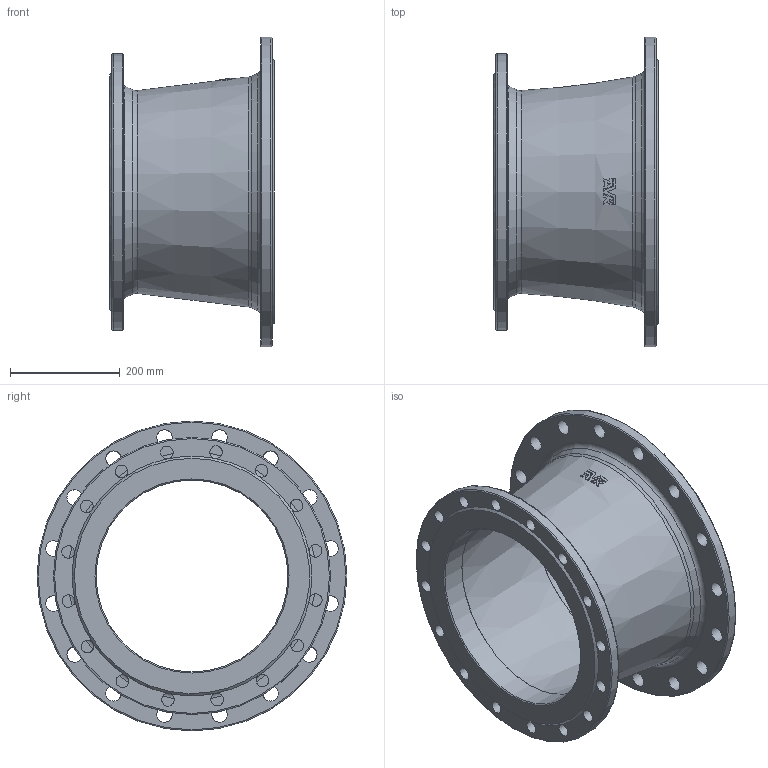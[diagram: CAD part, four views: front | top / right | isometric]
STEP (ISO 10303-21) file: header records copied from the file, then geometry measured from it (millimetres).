
FILE_DESCRIPTION (( 'STEP AP203' ), '1' );
FILE_NAME ('O_712_2210_DN400_DN350_0X_REV01.step', '2024-08-08T06:39:55', ( '' ), ( '' ), 'SwSTEP 2.0', 'SolidWorks 2022', '' );
FILE_SCHEMA (( 'CONFIG_CONTROL_DESIGN' ));
Length unit declared in the file: millimetre
Products named in the file (1): O_712_2210_DN400_DN350_0X_REV01
Bounding box: 300 x 565 x 565 mm (x, y, z)
Volume: 8036420.3 mm3; surface area: 1166906.5 mm2
Topology: 1 solids, 1 shells, 117 faces, 358 edges, 219 vertices
Faces by surface type: plane 57, cylinder 38, cone 12, torus 10
Full cylindrical faces by diameter (mm): 23 x16, 28 x16, 350 x1, 400 x1, 505 x1, 565 x1
Entity records: 3648 total; most frequent: CARTESIAN_POINT 839, DIRECTION 581, ORIENTED_EDGE 530, AXIS2_PLACEMENT_3D 272, EDGE_CURVE 265, EDGE_LOOP 213, VERTEX_POINT 180, FACE_OUTER_BOUND 163
